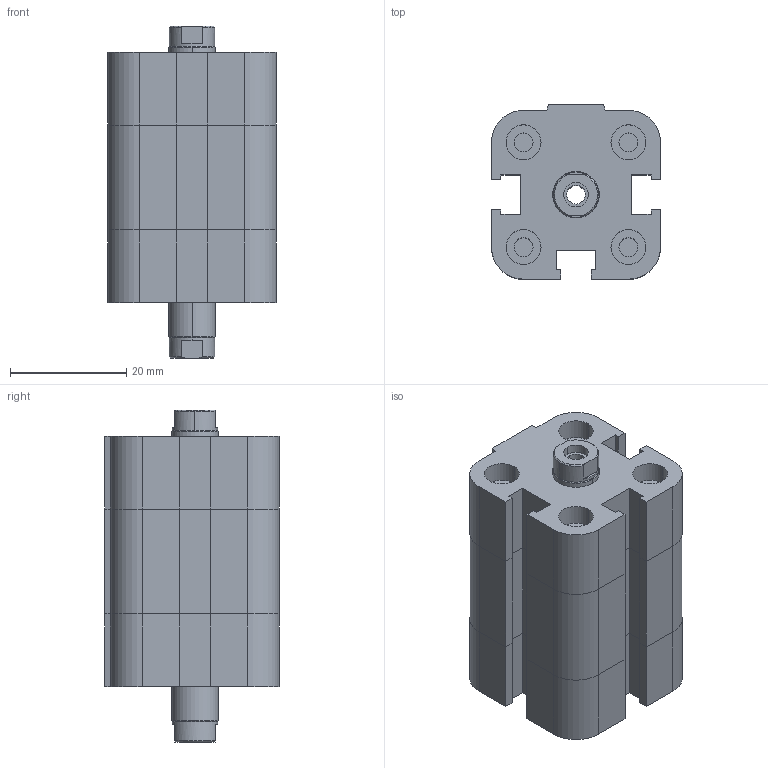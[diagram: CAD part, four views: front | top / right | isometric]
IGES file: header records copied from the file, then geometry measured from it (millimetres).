
Global section: file name: No Iges File Name specified; native system: Autodesk Inventor 2009; preprocessor: AutoDesk Inventor Iges Exporter R2009; author: maffial1; date: 20090420.201143; units: millimetre
Bounding box: 29 x 30 x 57 mm (x, y, z)
Volume: 29642 mm3; surface area: 12812.2 mm2
Topology: 2 solids, 2 shells, 204 faces, 456 edges, 278 vertices
Faces by surface type: plane 114, bspline 44, revolution 20, cylinder 18, cone 8
